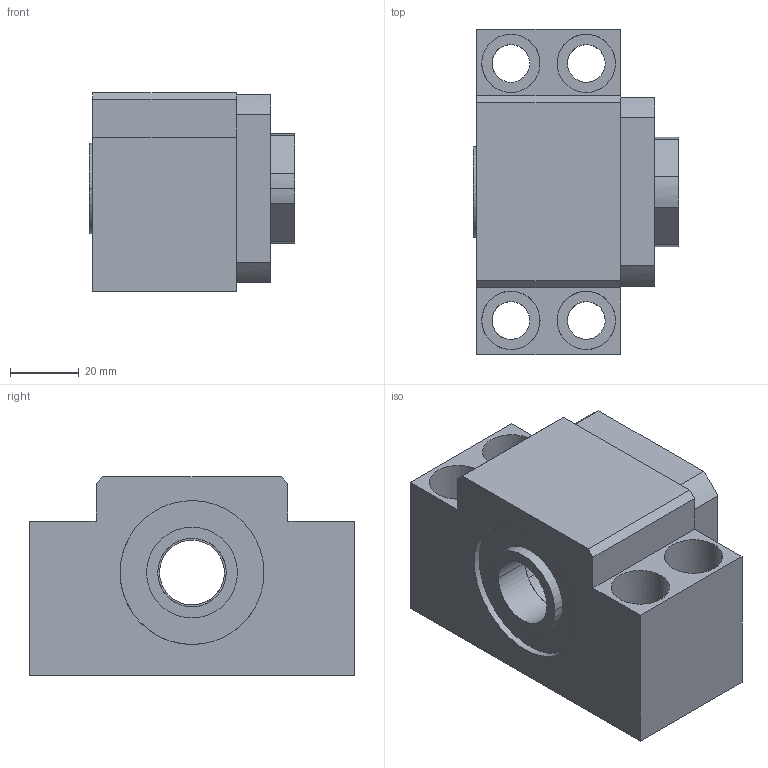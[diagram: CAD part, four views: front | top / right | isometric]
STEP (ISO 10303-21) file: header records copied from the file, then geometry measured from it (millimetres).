
FILE_DESCRIPTION(('CATIA V5 STEP Exchange'),'2;1');
FILE_NAME('D:\서포트 완성도면\AK\AK20.stp','2014-03-17T10:10:44+00:00',('none'),('none'),'CATIA Version 5 Release 18 GA (IN-10)','CATIA V5 STEP AP203','none');
FILE_SCHEMA(('CONFIG_CONTROL_DESIGN'));
Length unit declared in the file: millimetre
Products named in the file (1): AK20
Assembly tree (4 placements, depth 2):
  AK20
    #56
    #2423  x2
    #2699
Bounding box: 60 x 95 x 58 mm (x, y, z)
Volume: 196121 mm3; surface area: 41489.4 mm2
Topology: 4 solids, 4 shells, 81 faces, 194 edges, 130 vertices
Faces by surface type: cylinder 46, plane 35
Entity records: 3178 total; most frequent: CARTESIAN_POINT 1433, ORIENTED_EDGE 364, DIRECTION 265, EDGE_CURVE 182, VERTEX_POINT 122, VECTOR 98, EDGE_LOOP 98, LINE 98
